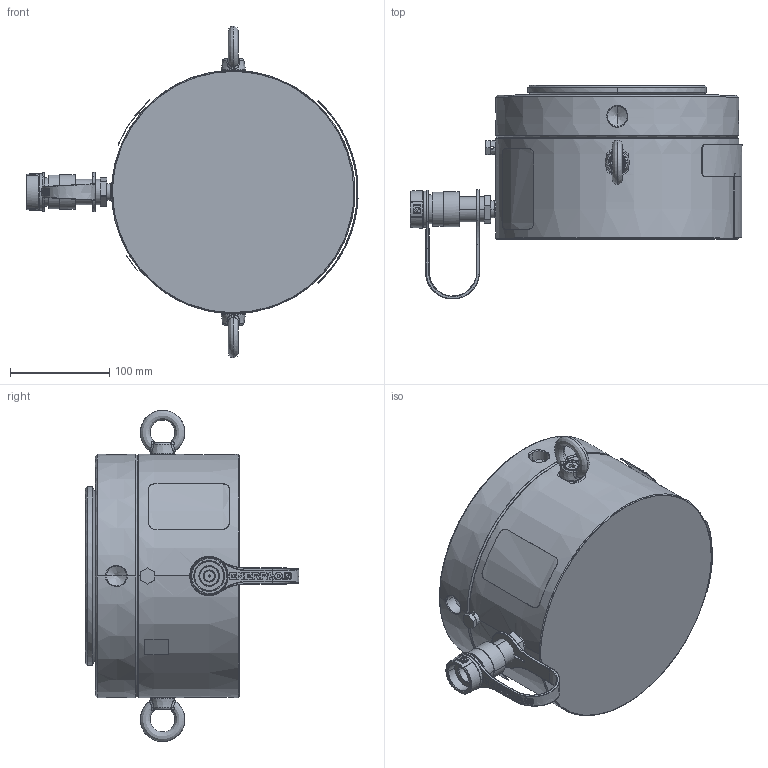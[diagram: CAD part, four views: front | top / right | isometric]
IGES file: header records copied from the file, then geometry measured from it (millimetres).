
Start section:  PTC IGES file: lpl2002.igs
Global section: file name: lpl2002.igs; native system: Creo Parametric by PTC Inc.; preprocessor: 2015290; author: Akhilesh.Subrahmanya; organization: Unknown; date: 20170720.133831; units: millimetre
Bounding box: 334.31 x 215.28 x 333.89 mm (x, y, z)
Surface area: 359368.2 mm2 (no closed solid volume)
Topology: 0 solids, 0 shells, 544 faces, 2937 edges, 2925 vertices
Faces by surface type: bspline 306, revolution 224, extrusion 14
